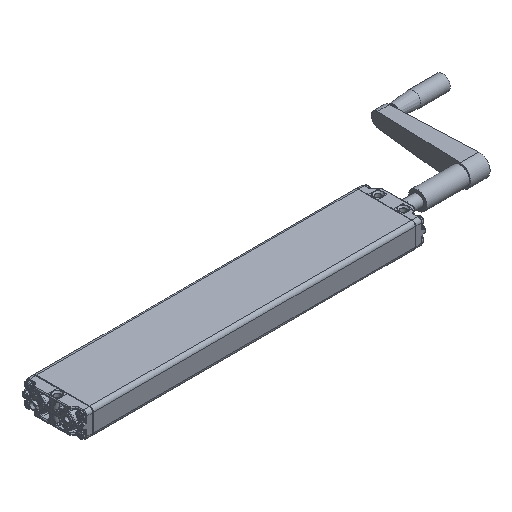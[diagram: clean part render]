
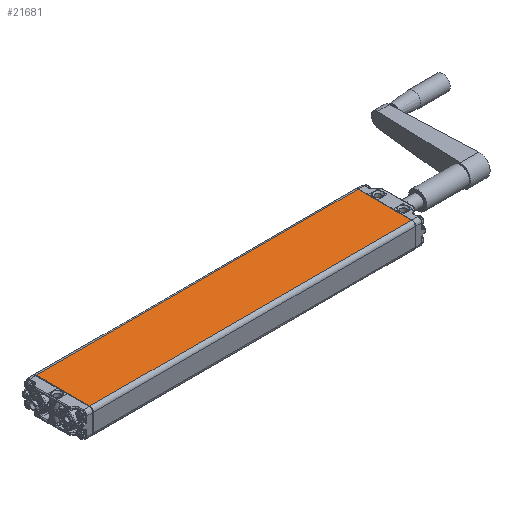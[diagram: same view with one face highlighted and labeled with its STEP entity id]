
A CAD part, isometric view. The second image highlights one B-rep face of the part: STEP entity #21681.
In plain terms, the highlighted planar face has unit normal (0, 0, 1).
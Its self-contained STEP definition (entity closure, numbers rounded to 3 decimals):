
#2630=LINE('',#52466,#3539);
#2631=LINE('',#52469,#3540);
#2632=LINE('',#52471,#3541);
#2633=LINE('',#52473,#3542);
#3539=VECTOR('',#27574,1000.);
#3540=VECTOR('',#27575,1000.);
#3541=VECTOR('',#27576,1000.);
#3542=VECTOR('',#27577,1000.);
#7993=ORIENTED_EDGE('',*,*,#12159,.T.);
#7994=ORIENTED_EDGE('',*,*,#12160,.T.);
#7995=ORIENTED_EDGE('',*,*,#12161,.T.);
#7996=ORIENTED_EDGE('',*,*,#12162,.T.);
#12159=EDGE_CURVE('',#14467,#14468,#2630,.T.);
#12160=EDGE_CURVE('',#14468,#14469,#2631,.F.);
#12161=EDGE_CURVE('',#14469,#14470,#2632,.F.);
#12162=EDGE_CURVE('',#14470,#14467,#2633,.T.);
#14467=VERTEX_POINT('',#52467);
#14468=VERTEX_POINT('',#52468);
#14469=VERTEX_POINT('',#52470);
#14470=VERTEX_POINT('',#52472);
#17024=EDGE_LOOP('',(#7993,#7994,#7995,#7996));
#18611=FACE_BOUND('',#17024,.T.);
#19466=PLANE('',#23554);
#21681=ADVANCED_FACE('',(#18611),#19466,.T.);
#23554=AXIS2_PLACEMENT_3D('',#52465,#27572,#27573);
#27572=DIRECTION('',(0.,0.,1.));
#27573=DIRECTION('',(1.,0.,0.));
#27574=DIRECTION('',(0.,-1.,0.));
#27575=DIRECTION('',(-1.,0.,0.));
#27576=DIRECTION('',(0.,-1.,0.));
#27577=DIRECTION('',(-1.,0.,0.));
#52465=CARTESIAN_POINT('',(42.5,450.5,17.5));
#52466=CARTESIAN_POINT('',(-37.5,450.5,17.5));
#52467=CARTESIAN_POINT('',(-37.5,450.,17.5));
#52468=CARTESIAN_POINT('',(-37.5,0.5,17.5));
#52469=CARTESIAN_POINT('',(37.5,0.5,17.5));
#52470=CARTESIAN_POINT('',(37.5,0.5,17.5));
#52471=CARTESIAN_POINT('',(37.5,450.5,17.5));
#52472=CARTESIAN_POINT('',(37.5,450.,17.5));
#52473=CARTESIAN_POINT('',(42.5,450.,17.5));
